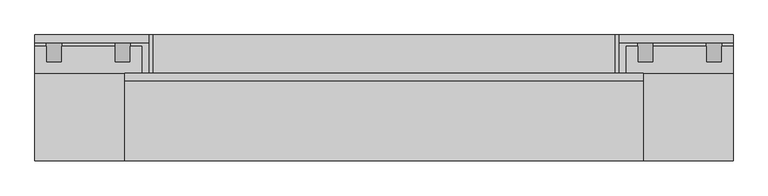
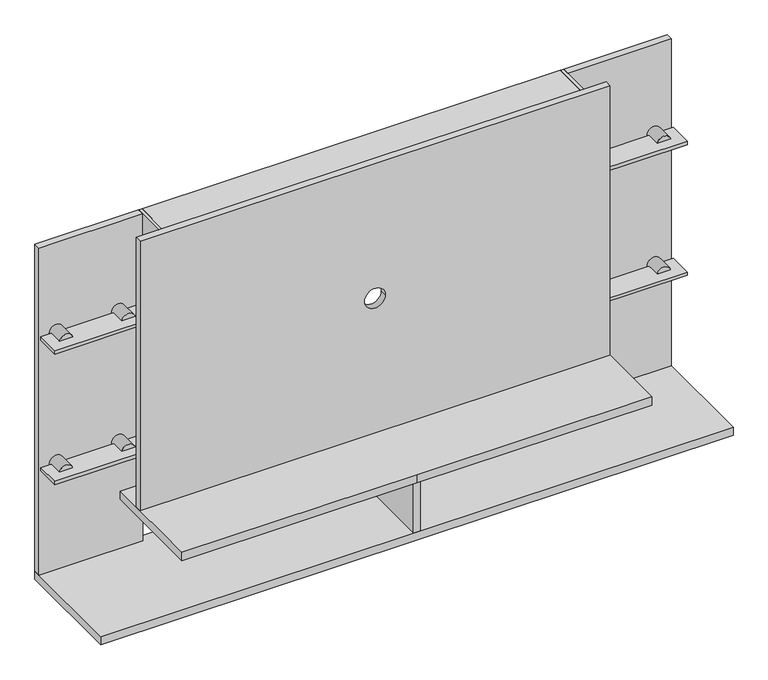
"""IFC4 building model written with IfcOpenShell, lengths in millimetres: furniture geometry, Painel de TV : Painel de TV."""

from ifc_helpers import new_model, si_unit, point, frame, frame_2d, origin, origin_with_axes, place, context, project, spatial, polyline, circle_curve, trimmed, segment, composite_curve, outline, extrude, source, transform, mapped, element, save
from ifc_brep_helpers import plane_surface, cylinder_surface, revolved_surface, advanced_brep


def furniture_56615289(model_context):
    return source(origin(), model_context, "Body", "SolidModel", [
        advanced_brep(
        [(30.0, 310.0, 755.0), (70.0, 310.0, 755.0), (69.3649167, 260.0, 750.0), (30.6350833, 260.0, 750.0), (30.6350833, 260.0, 760.0), (69.3649167, 260.0, 760.0), (30.0, 300.0, 755.0), (30.6350833, 300.0, 760.0), (69.3649167, 300.0, 760.0), (70.0, 300.0, 755.0), (69.3649167, 300.0, 750.0), (30.6350833, 300.0, 750.0)],
        [
            (0, 1, circle_curve(frame((50.0, 310.0, 755.0), z_axis=(0.0, 1.0, 0.0), x_axis=(1.0, 0.0, 0.0)), 20.0)),
            (1, 0, circle_curve(frame((50.0, 310.0, 755.0), z_axis=(0.0, 1.0, 0.0), x_axis=(1.0, 0.0, 0.0)), 20.0)),
            (2, 3),
            (3, 2, circle_curve(frame((50.0, 260.0, 755.0), z_axis=(0.0, -1.0, 0.0), x_axis=(1.0, 0.0, 0.0)), 20.0)),
            (4, 5),
            (5, 4, circle_curve(frame((50.0, 260.0, 755.0), z_axis=(0.0, -1.0, 0.0), x_axis=(1.0, 0.0, 0.0)), 20.0)),
            (0, 6),
            (6, 7, circle_curve(frame((50.0, 300.0, 755.0), z_axis=(0.0, 1.0, 0.0), x_axis=(1.0, 0.0, 0.0)), 20.0)),
            (7, 4),
            (5, 8),
            (8, 9, circle_curve(frame((50.0, 300.0, 755.0), z_axis=(0.0, 1.0, 0.0), x_axis=(1.0, 0.0, 0.0)), 20.0)),
            (9, 1),
            (9, 10, circle_curve(frame((50.0, 300.0, 755.0), z_axis=(0.0, 1.0, 0.0), x_axis=(1.0, 0.0, 0.0)), 20.0)),
            (10, 2),
            (3, 11),
            (11, 6, circle_curve(frame((50.0, 300.0, 755.0), z_axis=(0.0, 1.0, 0.0), x_axis=(1.0, 0.0, 0.0)), 20.0)),
            (8, 7),
            (11, 10),
        ],
        [
            plane_surface(frame((70.0, 310.0, 755.0), z_axis=(0.0, 1.0, 0.0), x_axis=(0.0, 0.0, 1.0))),
            plane_surface(frame((70.0, 260.0, 755.0), z_axis=(0.0, -1.0, 0.0), x_axis=(0.0, 0.0, -1.0))),
            cylinder_surface(frame((50.0, 260.0, 755.0), z_axis=(0.0, 1.0, 0.0), x_axis=(1.0, 0.0, 0.0)), 20.0),
            plane_surface(frame((30.6350833, 300.0, 760.0), z_axis=(0.0, -1.0, 0.0), x_axis=(-1.0, 0.0, 0.0))),
            plane_surface(frame((28.6350833, 300.0, 750.0), z_axis=(0.0, 0.0, 1.0), x_axis=(0.0, -1.0, 0.0))),
            plane_surface(frame((71.3649167, 300.0, 760.0), z_axis=(0.0, 0.0, -1.0), x_axis=(0.0, -1.0, 0.0))),
        ],
        [
            (0, [[1, 2]]),
            (1, [[3, 4]]),
            (1, [[5, 6]]),
            (2, [[7, 8, 9, -6, 10, 11, 12, -1]]),
            (2, [[-12, 13, 14, -4, 15, 16, -7, -2]]),
            (3, [[-13, -11, 17, -8, -16, 18]]),
            (4, [[-15, -3, -14, -18]]),
            (5, [[-10, -5, -9, -17]]),
        ],
    ),
        advanced_brep(
        [(250.0, 310.0, 755.0), (210.0, 310.0, 755.0), (249.3649167, 260.0, 750.0), (210.6350833, 260.0, 750.0), (210.6350833, 260.0, 760.0), (249.3649167, 260.0, 760.0), (210.0, 300.0, 755.0), (210.6350833, 300.0, 760.0), (249.3649167, 300.0, 760.0), (250.0, 300.0, 755.0), (249.3649167, 300.0, 750.0), (210.6350833, 300.0, 750.0)],
        [
            (0, 1, circle_curve(frame((230.0, 310.0, 755.0), z_axis=(0.0, 1.0, 0.0), x_axis=(-1.0, 0.0, 0.0)), 20.0)),
            (1, 0, circle_curve(frame((230.0, 310.0, 755.0), z_axis=(0.0, 1.0, 0.0), x_axis=(-1.0, 0.0, 0.0)), 20.0)),
            (2, 3),
            (3, 2, circle_curve(frame((230.0, 260.0, 755.0), z_axis=(0.0, -1.0, 0.0), x_axis=(-1.0, 0.0, 0.0)), 20.0)),
            (4, 5),
            (5, 4, circle_curve(frame((230.0, 260.0, 755.0), z_axis=(0.0, -1.0, 0.0), x_axis=(-1.0, 0.0, 0.0)), 20.0)),
            (1, 6),
            (6, 7, circle_curve(frame((230.0, 300.0, 755.0), z_axis=(0.0, 1.0, 0.0), x_axis=(-1.0, 0.0, 0.0)), 20.0)),
            (7, 4),
            (5, 8),
            (8, 9, circle_curve(frame((230.0, 300.0, 755.0), z_axis=(0.0, 1.0, 0.0), x_axis=(-1.0, 0.0, 0.0)), 20.0)),
            (9, 0),
            (9, 10, circle_curve(frame((230.0, 300.0, 755.0), z_axis=(0.0, 1.0, 0.0), x_axis=(-1.0, 0.0, 0.0)), 20.0)),
            (10, 2),
            (3, 11),
            (11, 6, circle_curve(frame((230.0, 300.0, 755.0), z_axis=(0.0, 1.0, 0.0), x_axis=(-1.0, 0.0, 0.0)), 20.0)),
            (11, 10),
            (8, 7),
        ],
        [
            plane_surface(frame((210.0, 310.0, 755.0), z_axis=(0.0, 1.0, 0.0), x_axis=(0.0, 0.0, -1.0))),
            plane_surface(frame((210.0, 260.0, 755.0), z_axis=(0.0, -1.0, 0.0), x_axis=(0.0, 0.0, 1.0))),
            cylinder_surface(frame((230.0, 260.0, 755.0), z_axis=(0.0, 1.0, 0.0), x_axis=(-1.0, 0.0, 0.0)), 20.0),
            plane_surface(frame((208.6350833, 300.0, 760.0), z_axis=(0.0, -1.0, 0.0), x_axis=(0.0, 0.0, -1.0))),
            plane_surface(frame((208.6350833, 300.0, 750.0), z_axis=(0.0, 0.0, 1.0), x_axis=(0.0, -1.0, 0.0))),
            plane_surface(frame((251.3649167, 300.0, 760.0), z_axis=(0.0, 0.0, -1.0), x_axis=(0.0, -1.0, 0.0))),
        ],
        [
            (0, [[1, 2]]),
            (1, [[3, 4]]),
            (1, [[5, 6]]),
            (2, [[7, 8, 9, -6, 10, 11, 12, -2]]),
            (2, [[-12, 13, 14, -4, 15, 16, -7, -1]]),
            (3, [[-8, -16, 17, -13, -11, 18]]),
            (4, [[-15, -3, -14, -17]]),
            (5, [[-10, -5, -9, -18]]),
        ],
    ),
        extrude(outline(polyline([(280.0, 300.0), (280.0, 230.0), (0.0, 230.0), (0.0, 300.0), (280.0, 300.0)])), frame((0.0, 0.0, 750.0), z_axis=(0.0, 0.0, 1.0), x_axis=(1.0, 0.0, 0.0)), (0.0, 0.0, 1.0), 10.0),
        advanced_brep(
        [(30.0, 310.0, 355.0), (70.0, 310.0, 355.0), (69.3649167, 260.0, 350.0), (30.6350833, 260.0, 350.0), (30.6350833, 260.0, 360.0), (69.3649167, 260.0, 360.0), (30.0, 300.0, 355.0), (30.6350833, 300.0, 360.0), (69.3649167, 300.0, 360.0), (70.0, 300.0, 355.0), (69.3649167, 300.0, 350.0), (30.6350833, 300.0, 350.0)],
        [
            (0, 1, circle_curve(frame((50.0, 310.0, 355.0), z_axis=(0.0, 1.0, 0.0), x_axis=(1.0, 0.0, 0.0)), 20.0)),
            (1, 0, circle_curve(frame((50.0, 310.0, 355.0), z_axis=(0.0, 1.0, 0.0), x_axis=(1.0, 0.0, 0.0)), 20.0)),
            (2, 3),
            (3, 2, circle_curve(frame((50.0, 260.0, 355.0), z_axis=(0.0, -1.0, 0.0), x_axis=(1.0, 0.0, 0.0)), 20.0)),
            (4, 5),
            (5, 4, circle_curve(frame((50.0, 260.0, 355.0), z_axis=(0.0, -1.0, 0.0), x_axis=(1.0, 0.0, 0.0)), 20.0)),
            (0, 6),
            (6, 7, circle_curve(frame((50.0, 300.0, 355.0), z_axis=(0.0, 1.0, 0.0), x_axis=(1.0, 0.0, 0.0)), 20.0)),
            (7, 4),
            (5, 8),
            (8, 9, circle_curve(frame((50.0, 300.0, 355.0), z_axis=(0.0, 1.0, 0.0), x_axis=(1.0, 0.0, 0.0)), 20.0)),
            (9, 1),
            (9, 10, circle_curve(frame((50.0, 300.0, 355.0), z_axis=(0.0, 1.0, 0.0), x_axis=(1.0, 0.0, 0.0)), 20.0)),
            (10, 2),
            (3, 11),
            (11, 6, circle_curve(frame((50.0, 300.0, 355.0), z_axis=(0.0, 1.0, 0.0), x_axis=(1.0, 0.0, 0.0)), 20.0)),
            (8, 7),
            (11, 10),
        ],
        [
            plane_surface(frame((70.0, 310.0, 355.0), z_axis=(0.0, 1.0, 0.0), x_axis=(0.0, 0.0, 1.0))),
            plane_surface(frame((70.0, 260.0, 355.0), z_axis=(0.0, -1.0, 0.0), x_axis=(0.0, 0.0, -1.0))),
            cylinder_surface(frame((50.0, 260.0, 355.0), z_axis=(0.0, 1.0, 0.0), x_axis=(1.0, 0.0, 0.0)), 20.0),
            plane_surface(frame((30.6350833, 300.0, 360.0), z_axis=(0.0, -1.0, 0.0), x_axis=(-1.0, 0.0, 0.0))),
            plane_surface(frame((28.6350833, 300.0, 350.0), z_axis=(0.0, 0.0, 1.0), x_axis=(0.0, -1.0, 0.0))),
            plane_surface(frame((71.3649167, 300.0, 360.0), z_axis=(0.0, 0.0, -1.0), x_axis=(0.0, -1.0, 0.0))),
        ],
        [
            (0, [[1, 2]]),
            (1, [[3, 4]]),
            (1, [[5, 6]]),
            (2, [[7, 8, 9, -6, 10, 11, 12, -1]]),
            (2, [[-12, 13, 14, -4, 15, 16, -7, -2]]),
            (3, [[-13, -11, 17, -8, -16, 18]]),
            (4, [[-15, -3, -14, -18]]),
            (5, [[-10, -5, -9, -17]]),
        ],
    ),
        advanced_brep(
        [(250.0, 310.0, 355.0), (210.0, 310.0, 355.0), (249.3649167, 260.0, 350.0), (210.6350833, 260.0, 350.0), (210.6350833, 260.0, 360.0), (249.3649167, 260.0, 360.0), (210.0, 300.0, 355.0), (210.6350833, 300.0, 360.0), (249.3649167, 300.0, 360.0), (250.0, 300.0, 355.0), (249.3649167, 300.0, 350.0), (210.6350833, 300.0, 350.0)],
        [
            (0, 1, circle_curve(frame((230.0, 310.0, 355.0), z_axis=(0.0, 1.0, 0.0), x_axis=(-1.0, 0.0, 0.0)), 20.0)),
            (1, 0, circle_curve(frame((230.0, 310.0, 355.0), z_axis=(0.0, 1.0, 0.0), x_axis=(-1.0, 0.0, 0.0)), 20.0)),
            (2, 3),
            (3, 2, circle_curve(frame((230.0, 260.0, 355.0), z_axis=(0.0, -1.0, 0.0), x_axis=(-1.0, 0.0, 0.0)), 20.0)),
            (4, 5),
            (5, 4, circle_curve(frame((230.0, 260.0, 355.0), z_axis=(0.0, -1.0, 0.0), x_axis=(-1.0, 0.0, 0.0)), 20.0)),
            (1, 6),
            (6, 7, circle_curve(frame((230.0, 300.0, 355.0), z_axis=(0.0, 1.0, 0.0), x_axis=(-1.0, 0.0, 0.0)), 20.0)),
            (7, 4),
            (5, 8),
            (8, 9, circle_curve(frame((230.0, 300.0, 355.0), z_axis=(0.0, 1.0, 0.0), x_axis=(-1.0, 0.0, 0.0)), 20.0)),
            (9, 0),
            (9, 10, circle_curve(frame((230.0, 300.0, 355.0), z_axis=(0.0, 1.0, 0.0), x_axis=(-1.0, 0.0, 0.0)), 20.0)),
            (10, 2),
            (3, 11),
            (11, 6, circle_curve(frame((230.0, 300.0, 355.0), z_axis=(0.0, 1.0, 0.0), x_axis=(-1.0, 0.0, 0.0)), 20.0)),
            (11, 10),
            (8, 7),
        ],
        [
            plane_surface(frame((210.0, 310.0, 355.0), z_axis=(0.0, 1.0, 0.0), x_axis=(0.0, 0.0, -1.0))),
            plane_surface(frame((210.0, 260.0, 355.0), z_axis=(0.0, -1.0, 0.0), x_axis=(0.0, 0.0, 1.0))),
            cylinder_surface(frame((230.0, 260.0, 355.0), z_axis=(0.0, 1.0, 0.0), x_axis=(-1.0, 0.0, 0.0)), 20.0),
            plane_surface(frame((208.6350833, 300.0, 360.0), z_axis=(0.0, -1.0, 0.0), x_axis=(0.0, 0.0, -1.0))),
            plane_surface(frame((208.6350833, 300.0, 350.0), z_axis=(0.0, 0.0, 1.0), x_axis=(0.0, -1.0, 0.0))),
            plane_surface(frame((251.3649167, 300.0, 360.0), z_axis=(0.0, 0.0, -1.0), x_axis=(0.0, -1.0, 0.0))),
        ],
        [
            (0, [[1, 2]]),
            (1, [[3, 4]]),
            (1, [[5, 6]]),
            (2, [[7, 8, 9, -6, 10, 11, 12, -2]]),
            (2, [[-12, 13, 14, -4, 15, 16, -7, -1]]),
            (3, [[-8, -16, 17, -13, -11, 18]]),
            (4, [[-15, -3, -14, -17]]),
            (5, [[-10, -5, -9, -18]]),
        ],
    ),
        extrude(outline(polyline([(280.0, 300.0), (280.0, 230.0), (0.0, 230.0), (0.0, 300.0), (280.0, 300.0)])), frame((0.0, 0.0, 350.0), z_axis=(0.0, 0.0, 1.0), x_axis=(1.0, 0.0, 0.0)), (0.0, 0.0, 1.0), 10.0),
        advanced_brep(
        [(1800.0, 310.0, 755.0), (1760.0, 310.0, 755.0), (1760.6350833, 260.0, 750.0), (1799.3649167, 260.0, 750.0), (1799.3649167, 260.0, 760.0), (1760.6350833, 260.0, 760.0), (1760.0, 300.0, 755.0), (1760.6350833, 300.0, 760.0), (1799.3649167, 300.0, 760.0), (1800.0, 300.0, 755.0), (1799.3649167, 300.0, 750.0), (1760.6350833, 300.0, 750.0)],
        [
            (0, 1, circle_curve(frame((1780.0, 310.0, 755.0), z_axis=(0.0, 1.0, 0.0), x_axis=(-1.0, 0.0, 0.0)), 20.0)),
            (1, 0, circle_curve(frame((1780.0, 310.0, 755.0), z_axis=(0.0, 1.0, 0.0), x_axis=(-1.0, 0.0, 0.0)), 20.0)),
            (2, 3, circle_curve(frame((1780.0, 260.0, 755.0), z_axis=(0.0, -1.0, 0.0), x_axis=(-1.0, 0.0, 0.0)), 20.0)),
            (3, 2),
            (4, 5, circle_curve(frame((1780.0, 260.0, 755.0), z_axis=(0.0, -1.0, 0.0), x_axis=(-1.0, 0.0, 0.0)), 20.0)),
            (5, 4),
            (1, 6),
            (6, 7, circle_curve(frame((1780.0, 300.0, 755.0), z_axis=(0.0, 1.0, 0.0), x_axis=(-1.0, 0.0, 0.0)), 20.0)),
            (7, 5),
            (4, 8),
            (8, 9, circle_curve(frame((1780.0, 300.0, 755.0), z_axis=(0.0, 1.0, 0.0), x_axis=(-1.0, 0.0, 0.0)), 20.0)),
            (9, 0),
            (9, 10, circle_curve(frame((1780.0, 300.0, 755.0), z_axis=(0.0, 1.0, 0.0), x_axis=(-1.0, 0.0, 0.0)), 20.0)),
            (10, 3),
            (2, 11),
            (11, 6, circle_curve(frame((1780.0, 300.0, 755.0), z_axis=(0.0, 1.0, 0.0), x_axis=(-1.0, 0.0, 0.0)), 20.0)),
            (11, 10),
            (8, 7),
        ],
        [
            plane_surface(frame((1760.0, 310.0, 755.0), z_axis=(0.0, 1.0, 0.0), x_axis=(0.0, 0.0, 1.0))),
            plane_surface(frame((1760.0, 260.0, 755.0), z_axis=(0.0, -1.0, 0.0), x_axis=(0.0, 0.0, -1.0))),
            cylinder_surface(frame((1780.0, 260.0, 755.0), z_axis=(0.0, 1.0, 0.0), x_axis=(-1.0, 0.0, 0.0)), 20.0),
            plane_surface(frame((1799.3649167, 300.0, 760.0), z_axis=(0.0, -1.0, 0.0), x_axis=(1.0, 0.0, 0.0))),
            plane_surface(frame((1801.3649167, 300.0, 750.0), z_axis=(0.0, 0.0, 1.0), x_axis=(0.0, -1.0, 0.0))),
            plane_surface(frame((1758.6350833, 300.0, 760.0), z_axis=(0.0, 0.0, -1.0), x_axis=(0.0, -1.0, 0.0))),
        ],
        [
            (0, [[1, 2]]),
            (1, [[3, 4]]),
            (1, [[5, 6]]),
            (2, [[-2, 7, 8, 9, -5, 10, 11, 12]]),
            (2, [[-1, -12, 13, 14, -3, 15, 16, -7]]),
            (3, [[17, -13, -11, 18, -8, -16]]),
            (4, [[-17, -15, -4, -14]]),
            (5, [[-18, -10, -6, -9]]),
        ],
    ),
        advanced_brep(
        [(1580.0, 310.0, 755.0), (1620.0, 310.0, 755.0), (1580.6350833, 260.0, 750.0), (1619.3649167, 260.0, 750.0), (1619.3649167, 260.0, 760.0), (1580.6350833, 260.0, 760.0), (1580.0, 300.0, 755.0), (1580.6350833, 300.0, 760.0), (1619.3649167, 300.0, 760.0), (1620.0, 300.0, 755.0), (1619.3649167, 300.0, 750.0), (1580.6350833, 300.0, 750.0)],
        [
            (0, 1, circle_curve(frame((1600.0, 310.0, 755.0), z_axis=(0.0, 1.0, 0.0), x_axis=(1.0, 0.0, 0.0)), 20.0)),
            (1, 0, circle_curve(frame((1600.0, 310.0, 755.0), z_axis=(0.0, 1.0, 0.0), x_axis=(1.0, 0.0, 0.0)), 20.0)),
            (2, 3, circle_curve(frame((1600.0, 260.0, 755.0), z_axis=(0.0, -1.0, 0.0), x_axis=(1.0, 0.0, 0.0)), 20.0)),
            (3, 2),
            (4, 5, circle_curve(frame((1600.0, 260.0, 755.0), z_axis=(0.0, -1.0, 0.0), x_axis=(1.0, 0.0, 0.0)), 20.0)),
            (5, 4),
            (0, 6),
            (6, 7, circle_curve(frame((1600.0, 300.0, 755.0), z_axis=(0.0, 1.0, 0.0), x_axis=(1.0, 0.0, 0.0)), 20.0)),
            (7, 5),
            (4, 8),
            (8, 9, circle_curve(frame((1600.0, 300.0, 755.0), z_axis=(0.0, 1.0, 0.0), x_axis=(1.0, 0.0, 0.0)), 20.0)),
            (9, 1),
            (9, 10, circle_curve(frame((1600.0, 300.0, 755.0), z_axis=(0.0, 1.0, 0.0), x_axis=(1.0, 0.0, 0.0)), 20.0)),
            (10, 3),
            (2, 11),
            (11, 6, circle_curve(frame((1600.0, 300.0, 755.0), z_axis=(0.0, 1.0, 0.0), x_axis=(1.0, 0.0, 0.0)), 20.0)),
            (8, 7),
            (11, 10),
        ],
        [
            plane_surface(frame((1620.0, 310.0, 755.0), z_axis=(0.0, 1.0, 0.0), x_axis=(0.0, 0.0, -1.0))),
            plane_surface(frame((1620.0, 260.0, 755.0), z_axis=(0.0, -1.0, 0.0), x_axis=(0.0, 0.0, 1.0))),
            cylinder_surface(frame((1600.0, 260.0, 755.0), z_axis=(0.0, 1.0, 0.0), x_axis=(1.0, 0.0, 0.0)), 20.0),
            plane_surface(frame((1621.3649167, 300.0, 760.0), z_axis=(0.0, -1.0, 0.0), x_axis=(0.0, 0.0, -1.0))),
            plane_surface(frame((1621.3649167, 300.0, 750.0), z_axis=(0.0, 0.0, 1.0), x_axis=(0.0, -1.0, 0.0))),
            plane_surface(frame((1578.6350833, 300.0, 760.0), z_axis=(0.0, 0.0, -1.0), x_axis=(0.0, -1.0, 0.0))),
        ],
        [
            (0, [[1, 2]]),
            (1, [[3, 4]]),
            (1, [[5, 6]]),
            (2, [[-1, 7, 8, 9, -5, 10, 11, 12]]),
            (2, [[-2, -12, 13, 14, -3, 15, 16, -7]]),
            (3, [[17, -8, -16, 18, -13, -11]]),
            (4, [[-18, -15, -4, -14]]),
            (5, [[-17, -10, -6, -9]]),
        ],
    ),
        extrude(outline(polyline([(1550.0, 300.0), (1830.0, 300.0), (1830.0, 230.0), (1550.0, 230.0), (1550.0, 300.0)])), frame((0.0, 0.0, 750.0), z_axis=(0.0, 0.0, 1.0), x_axis=(1.0, 0.0, 0.0)), (0.0, 0.0, 1.0), 10.0),
        advanced_brep(
        [(1800.0, 310.0, 355.0), (1760.0, 310.0, 355.0), (1760.6350833, 260.0, 350.0), (1799.3649167, 260.0, 350.0), (1799.3649167, 260.0, 360.0), (1760.6350833, 260.0, 360.0), (1760.0, 300.0, 355.0), (1760.6350833, 300.0, 360.0), (1799.3649167, 300.0, 360.0), (1800.0, 300.0, 355.0), (1799.3649167, 300.0, 350.0), (1760.6350833, 300.0, 350.0)],
        [
            (0, 1, circle_curve(frame((1780.0, 310.0, 355.0), z_axis=(0.0, 1.0, 0.0), x_axis=(-1.0, 0.0, 0.0)), 20.0)),
            (1, 0, circle_curve(frame((1780.0, 310.0, 355.0), z_axis=(0.0, 1.0, 0.0), x_axis=(-1.0, 0.0, 0.0)), 20.0)),
            (2, 3, circle_curve(frame((1780.0, 260.0, 355.0), z_axis=(0.0, -1.0, 0.0), x_axis=(-1.0, 0.0, 0.0)), 20.0)),
            (3, 2),
            (4, 5, circle_curve(frame((1780.0, 260.0, 355.0), z_axis=(0.0, -1.0, 0.0), x_axis=(-1.0, 0.0, 0.0)), 20.0)),
            (5, 4),
            (1, 6),
            (6, 7, circle_curve(frame((1780.0, 300.0, 355.0), z_axis=(0.0, 1.0, 0.0), x_axis=(-1.0, 0.0, 0.0)), 20.0)),
            (7, 5),
            (4, 8),
            (8, 9, circle_curve(frame((1780.0, 300.0, 355.0), z_axis=(0.0, 1.0, 0.0), x_axis=(-1.0, 0.0, 0.0)), 20.0)),
            (9, 0),
            (9, 10, circle_curve(frame((1780.0, 300.0, 355.0), z_axis=(0.0, 1.0, 0.0), x_axis=(-1.0, 0.0, 0.0)), 20.0)),
            (10, 3),
            (2, 11),
            (11, 6, circle_curve(frame((1780.0, 300.0, 355.0), z_axis=(0.0, 1.0, 0.0), x_axis=(-1.0, 0.0, 0.0)), 20.0)),
            (11, 10),
            (8, 7),
        ],
        [
            plane_surface(frame((1760.0, 310.0, 355.0), z_axis=(0.0, 1.0, 0.0), x_axis=(0.0, 0.0, 1.0))),
            plane_surface(frame((1760.0, 260.0, 355.0), z_axis=(0.0, -1.0, 0.0), x_axis=(0.0, 0.0, -1.0))),
            cylinder_surface(frame((1780.0, 260.0, 355.0), z_axis=(0.0, 1.0, 0.0), x_axis=(-1.0, 0.0, 0.0)), 20.0),
            plane_surface(frame((1799.3649167, 300.0, 360.0), z_axis=(0.0, -1.0, 0.0), x_axis=(1.0, 0.0, 0.0))),
            plane_surface(frame((1801.3649167, 300.0, 350.0), z_axis=(0.0, 0.0, 1.0), x_axis=(0.0, -1.0, 0.0))),
            plane_surface(frame((1758.6350833, 300.0, 360.0), z_axis=(0.0, 0.0, -1.0), x_axis=(0.0, -1.0, 0.0))),
        ],
        [
            (0, [[1, 2]]),
            (1, [[3, 4]]),
            (1, [[5, 6]]),
            (2, [[-2, 7, 8, 9, -5, 10, 11, 12]]),
            (2, [[-1, -12, 13, 14, -3, 15, 16, -7]]),
            (3, [[17, -13, -11, 18, -8, -16]]),
            (4, [[-17, -15, -4, -14]]),
            (5, [[-18, -10, -6, -9]]),
        ],
    ),
        advanced_brep(
        [(1580.0, 310.0, 355.0), (1620.0, 310.0, 355.0), (1580.6350833, 260.0, 350.0), (1619.3649167, 260.0, 350.0), (1619.3649167, 260.0, 360.0), (1580.6350833, 260.0, 360.0), (1580.0, 300.0, 355.0), (1580.6350833, 300.0, 360.0), (1619.3649167, 300.0, 360.0), (1620.0, 300.0, 355.0), (1619.3649167, 300.0, 350.0), (1580.6350833, 300.0, 350.0)],
        [
            (0, 1, circle_curve(frame((1600.0, 310.0, 355.0), z_axis=(0.0, 1.0, 0.0), x_axis=(1.0, 0.0, 0.0)), 20.0)),
            (1, 0, circle_curve(frame((1600.0, 310.0, 355.0), z_axis=(0.0, 1.0, 0.0), x_axis=(1.0, 0.0, 0.0)), 20.0)),
            (2, 3, circle_curve(frame((1600.0, 260.0, 355.0), z_axis=(0.0, -1.0, 0.0), x_axis=(1.0, 0.0, 0.0)), 20.0)),
            (3, 2),
            (4, 5, circle_curve(frame((1600.0, 260.0, 355.0), z_axis=(0.0, -1.0, 0.0), x_axis=(1.0, 0.0, 0.0)), 20.0)),
            (5, 4),
            (0, 6),
            (6, 7, circle_curve(frame((1600.0, 300.0, 355.0), z_axis=(0.0, 1.0, 0.0), x_axis=(1.0, 0.0, 0.0)), 20.0)),
            (7, 5),
            (4, 8),
            (8, 9, circle_curve(frame((1600.0, 300.0, 355.0), z_axis=(0.0, 1.0, 0.0), x_axis=(1.0, 0.0, 0.0)), 20.0)),
            (9, 1),
            (9, 10, circle_curve(frame((1600.0, 300.0, 355.0), z_axis=(0.0, 1.0, 0.0), x_axis=(1.0, 0.0, 0.0)), 20.0)),
            (10, 3),
            (2, 11),
            (11, 6, circle_curve(frame((1600.0, 300.0, 355.0), z_axis=(0.0, 1.0, 0.0), x_axis=(1.0, 0.0, 0.0)), 20.0)),
            (8, 7),
            (11, 10),
        ],
        [
            plane_surface(frame((1620.0, 310.0, 355.0), z_axis=(0.0, 1.0, 0.0), x_axis=(0.0, 0.0, -1.0))),
            plane_surface(frame((1620.0, 260.0, 355.0), z_axis=(0.0, -1.0, 0.0), x_axis=(0.0, 0.0, 1.0))),
            cylinder_surface(frame((1600.0, 260.0, 355.0), z_axis=(0.0, 1.0, 0.0), x_axis=(1.0, 0.0, 0.0)), 20.0),
            plane_surface(frame((1621.3649167, 300.0, 360.0), z_axis=(0.0, -1.0, 0.0), x_axis=(0.0, 0.0, -1.0))),
            plane_surface(frame((1621.3649167, 300.0, 350.0), z_axis=(0.0, 0.0, 1.0), x_axis=(0.0, -1.0, 0.0))),
            plane_surface(frame((1578.6350833, 300.0, 360.0), z_axis=(0.0, 0.0, -1.0), x_axis=(0.0, -1.0, 0.0))),
        ],
        [
            (0, [[1, 2]]),
            (1, [[3, 4]]),
            (1, [[5, 6]]),
            (2, [[-1, 7, 8, 9, -5, 10, 11, 12]]),
            (2, [[-2, -12, 13, 14, -3, 15, 16, -7]]),
            (3, [[17, -8, -16, 18, -13, -11]]),
            (4, [[-18, -15, -4, -14]]),
            (5, [[-17, -10, -6, -9]]),
        ],
    ),
        extrude(outline(polyline([(1550.0, 300.0), (1830.0, 300.0), (1830.0, 230.0), (1550.0, 230.0), (1550.0, 300.0)])), frame((0.0, 0.0, 350.0), z_axis=(0.0, 0.0, 1.0), x_axis=(1.0, 0.0, 0.0)), (0.0, 0.0, 1.0), 10.0),
        extrude(outline(polyline([(1595.0, 0.0), (915.0, 0.0), (235.0, 0.0), (235.0, 310.0), (1595.0, 310.0), (1595.0, 0.0)]), holes=[composite_curve([segment(trimmed(circle_curve(frame_2d((759.5, 270.0)), 15.0), [point((774.5, 270.0))], [point((744.5, 270.0))], True, "CARTESIAN"), True, "CONTINUOUS"), segment(trimmed(circle_curve(frame_2d((759.5, 270.0)), 15.0), [point((744.5, 270.0))], [point((774.5, 270.0))], True, "CARTESIAN"), True, "CONTINUOUS")], self_intersect=False), composite_curve([segment(trimmed(circle_curve(frame_2d((1070.5, 270.0)), 15.0), [point((1055.5, 270.0))], [point((1085.5, 270.0))], True, "CARTESIAN"), True, "CONTINUOUS"), segment(trimmed(circle_curve(frame_2d((1070.5, 270.0)), 15.0), [point((1085.5, 270.0))], [point((1055.5, 270.0))], True, "CARTESIAN"), True, "CONTINUOUS")], self_intersect=False)]), frame((0.0, 0.0, 175.0), z_axis=(0.0, 0.0, 1.0), x_axis=(1.0, 0.0, 0.0)), (0.0, 0.0, 1.0), 25.0),
        advanced_brep(
        [(235.0, 230.0, 1025.0), (235.0, 210.0, 1025.0), (1595.0, 210.0, 1025.0), (1595.0, 230.0, 1025.0), (915.0, 230.0, 1025.0), (235.0, 230.0, 200.0), (915.0, 230.0, 200.0), (1595.0, 230.0, 200.0), (1595.0, 210.0, 200.0), (235.0, 210.0, 200.0), (885.0, 210.0, 612.5), (945.0, 210.0, 612.5), (915.0, 230.0, 582.5), (945.0, 230.0, 612.5), (915.0, 230.0, 642.5), (885.0, 230.0, 612.5)],
        [
            (0, 1),
            (1, 2),
            (2, 3),
            (3, 4),
            (4, 0),
            (5, 6),
            (6, 7),
            (7, 8),
            (8, 9),
            (9, 5),
            (0, 5),
            (9, 1),
            (8, 2),
            (10, 11, circle_curve(frame((915.0, 210.0, 612.5), z_axis=(0.0, 1.0, 0.0), x_axis=(1.0, 0.0, 0.0)), 30.0)),
            (11, 10, circle_curve(frame((915.0, 210.0, 612.5), z_axis=(0.0, 1.0, 0.0), x_axis=(1.0, 0.0, 0.0)), 30.0)),
            (7, 3),
            (6, 12),
            (12, 13, circle_curve(frame((915.0, 230.0, 612.5), z_axis=(0.0, -1.0, 0.0), x_axis=(1.0, 0.0, 0.0)), 30.0)),
            (13, 14, circle_curve(frame((915.0, 230.0, 612.5), z_axis=(0.0, -1.0, 0.0), x_axis=(1.0, 0.0, 0.0)), 30.0)),
            (14, 4),
            (14, 15, circle_curve(frame((915.0, 230.0, 612.5), z_axis=(0.0, -1.0, 0.0), x_axis=(1.0, 0.0, 0.0)), 30.0)),
            (15, 12, circle_curve(frame((915.0, 230.0, 612.5), z_axis=(0.0, -1.0, 0.0), x_axis=(1.0, 0.0, 0.0)), 30.0)),
            (13, 11),
            (10, 15),
        ],
        [
            plane_surface(frame((235.0, 230.0, 1025.0), z_axis=(0.0, 0.0, 1.0), x_axis=(0.0, -1.0, 0.0))),
            plane_surface(frame((235.0, 230.0, 200.0), z_axis=(0.0, 0.0, -1.0), x_axis=(0.0, 1.0, 0.0))),
            plane_surface(frame((235.0, 230.0, 1025.0), z_axis=(-1.0, 0.0, 0.0), x_axis=(0.0, 0.0, -1.0))),
            plane_surface(frame((235.0, 210.0, 1025.0), z_axis=(0.0, -1.0, 0.0), x_axis=(0.0, 0.0, -1.0))),
            plane_surface(frame((1595.0, 210.0, 1025.0), z_axis=(1.0, 0.0, 0.0), x_axis=(0.0, 0.0, -1.0))),
            plane_surface(frame((1595.0, 230.0, 1025.0), z_axis=(0.0, 1.0, 0.0), x_axis=(0.0, 0.0, -1.0))),
            plane_surface(frame((915.0, 230.0, 1025.0), z_axis=(0.0, 1.0, 0.0), x_axis=(0.0, 0.0, -1.0))),
            revolved_surface(polyline([(945.0, 230.0, 612.5), (945.0, 210.0, 612.5)]), (915.0, 210.0, 612.5), (0.0, 1.0, 0.0)),
        ],
        [
            (0, [[1, 2, 3, 4, 5]]),
            (1, [[6, 7, 8, 9, 10]]),
            (2, [[-1, 11, -10, 12]]),
            (3, [[-2, -12, -9, 13], [14, 15]]),
            (4, [[-3, -13, -8, 16]]),
            (5, [[-4, -16, -7, 17, 18, 19, 20]]),
            (6, [[-5, -20, 21, 22, -17, -6, -11]]),
            (7, [[23, -14, 24, -21, -19]]),
            (7, [[-23, -18, -22, -24, -15]]),
        ],
    ),
        extrude(outline(polyline([(1520.0, 230.0), (310.0, 230.0), (310.0, 330.0), (1520.0, 330.0), (1520.0, 230.0)])), frame((0.0, 0.0, 1015.0), z_axis=(0.0, 0.0, 1.0), x_axis=(1.0, 0.0, 0.0)), (0.0, 0.0, 1.0), 10.0),
        extrude(outline(polyline([(1530.0, 230.0), (1520.0, 230.0), (1520.0, 330.0), (1530.0, 330.0), (1530.0, 230.0)])), frame((0.0, 0.0, 200.0), z_axis=(0.0, 0.0, 1.0), x_axis=(1.0, 0.0, 0.0)), (0.0, 0.0, 1.0), 825.0),
        extrude(outline(polyline([(300.0, 230.0), (300.0, 330.0), (310.0, 330.0), (310.0, 230.0), (300.0, 230.0)])), frame((0.0, 0.0, 200.0), z_axis=(0.0, 0.0, 1.0), x_axis=(1.0, 0.0, 0.0)), (0.0, 0.0, 1.0), 825.0),
        extrude(outline(polyline([(1530.0, 330.0), (1830.0, 330.0), (1830.0, 310.0), (1530.0, 310.0), (1530.0, 330.0)])), frame((0.0, 0.0, 25.0), z_axis=(0.0, 0.0, 1.0), x_axis=(1.0, 0.0, 0.0)), (0.0, 0.0, 1.0), 1000.0),
        extrude(outline(polyline([(300.0, 330.0), (300.0, 310.0), (0.0, 310.0), (0.0, 330.0), (300.0, 330.0)])), frame((0.0, 0.0, 25.0), z_axis=(0.0, 0.0, 1.0), x_axis=(1.0, 0.0, 0.0)), (0.0, 0.0, 1.0), 1000.0),
        extrude(outline(polyline([(1215.0, 290.0), (902.0913499, 290.0), (615.0, 290.0), (615.0, 310.0), (1215.0, 310.0), (1215.0, 290.0)])), frame((0.0, 0.0, 25.0), z_axis=(0.0, 0.0, 1.0), x_axis=(1.0, 0.0, 0.0)), (0.0, 0.0, 1.0), 150.0),
        extrude(outline(polyline([(925.0, 290.0), (925.0, 0.0), (905.0, 0.0), (905.0, 290.0), (925.0, 290.0)])), frame((0.0, 0.0, 25.0), z_axis=(0.0, 0.0, 1.0), x_axis=(1.0, 0.0, 0.0)), (0.0, 0.0, 1.0), 150.0),
        extrude(outline(polyline([(1830.0, 0.0), (0.0, 0.0), (0.0, 330.0), (1830.0, 330.0), (1830.0, 0.0)])), origin_with_axes(), (0.0, 0.0, 1.0), 25.0),
    ])


if __name__ == "__main__":
    model = new_model("IFC4")
    model_context = context("Model", 3, world=origin())
    ifc_project = project(units=[si_unit("LENGTHUNIT", "METRE", prefix="MILLI")], contexts=[model_context])
    site = spatial("IfcSite", under=ifc_project)
    building = spatial("IfcBuilding", under=site)
    placement = place(None, origin())
    furniture_shape = furniture_56615289(model_context)
    element("IfcFurniture", 1, ObjectType="Painel de TV : Painel de TV", at=placement, inside=building, context=model_context, shape_type="MappedRepresentation", body=[
        mapped(furniture_shape, transform((0.0, 0.0, 0.0), x_axis=(1.0, 0.0, 0.0), y_axis=(0.0, 1.0, 0.0), z_axis=(0.0, 0.0, 1.0))),
    ])
    save(model, "model.ifc")
